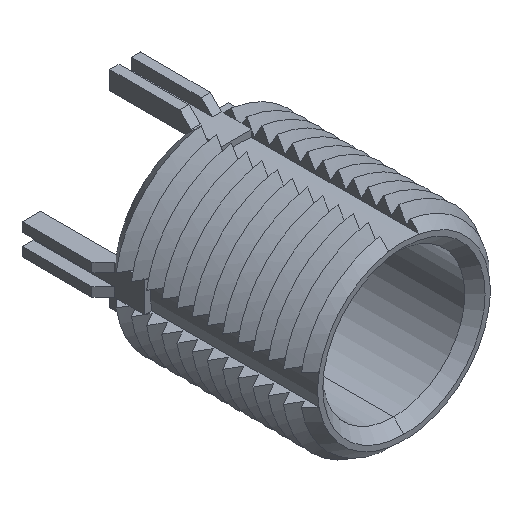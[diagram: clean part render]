
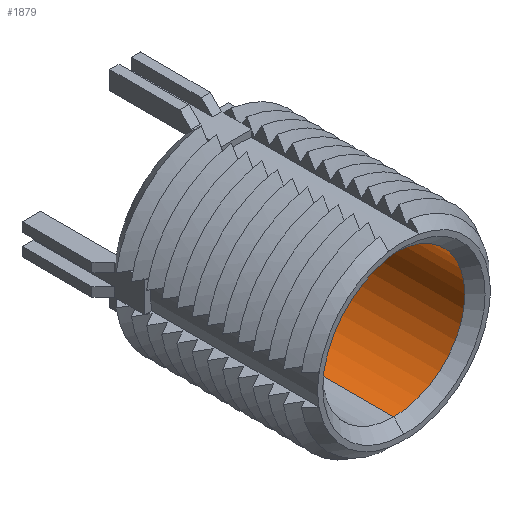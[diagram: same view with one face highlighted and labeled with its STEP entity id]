
A CAD part, isometric view. The second image highlights one B-rep face of the part: STEP entity #1879.
In plain terms, the highlighted cylindrical face has radius 7 mm (diameter 14 mm), a partial arc.
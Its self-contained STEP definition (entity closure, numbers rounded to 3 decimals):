
#29 = LINE ( 'NONE', #2131, #474 ) ;
#204 = DIRECTION ( 'NONE',  ( 0., 0., 1. ) ) ;
#313 = DIRECTION ( 'NONE',  ( 0., 1., 0. ) ) ;
#352 = VERTEX_POINT ( 'NONE', #4400 ) ;
#474 = VECTOR ( 'NONE', #4198, 1000. ) ;
#523 = DIRECTION ( 'NONE',  ( 0., 0., 1. ) ) ;
#678 = AXIS2_PLACEMENT_3D ( 'NONE', #2722, #4811, #204 ) ;
#851 = CIRCLE ( 'NONE', #3343, 7. ) ;
#864 = ORIENTED_EDGE ( 'NONE', *, *, #6205, .T. ) ;
#958 = DIRECTION ( 'NONE',  ( 0., -1., 0. ) ) ;
#967 = EDGE_CURVE ( 'NONE', #352, #2392, #851, .T. ) ;
#1021 = CYLINDRICAL_SURFACE ( 'NONE', #3235, 7. ) ;
#1179 = VERTEX_POINT ( 'NONE', #4066 ) ;
#1366 = DIRECTION ( 'NONE',  ( 0., 0., 1. ) ) ;
#1647 = ORIENTED_EDGE ( 'NONE', *, *, #3857, .T. ) ;
#1692 = CARTESIAN_POINT ( 'NONE',  ( 0., -19., 7. ) ) ;
#1720 = LINE ( 'NONE', #5897, #2617 ) ;
#1878 = ORIENTED_EDGE ( 'NONE', *, *, #6290, .F. ) ;
#1879 = ADVANCED_FACE ( 'NONE', ( #2641 ), #1021, .F. ) ;
#1910 = VERTEX_POINT ( 'NONE', #6454 ) ;
#2131 = CARTESIAN_POINT ( 'NONE',  ( 0., -39.799, -7. ) ) ;
#2371 = EDGE_LOOP ( 'NONE', ( #1878, #5184, #1647, #864 ) ) ;
#2392 = VERTEX_POINT ( 'NONE', #1692 ) ;
#2617 = VECTOR ( 'NONE', #313, 1000. ) ;
#2641 = FACE_OUTER_BOUND ( 'NONE', #2371, .T. ) ;
#2722 = CARTESIAN_POINT ( 'NONE',  ( 0., -1., 0. ) ) ;
#3235 = AXIS2_PLACEMENT_3D ( 'NONE', #6174, #5125, #523 ) ;
#3343 = AXIS2_PLACEMENT_3D ( 'NONE', #3529, #958, #1366 ) ;
#3529 = CARTESIAN_POINT ( 'NONE',  ( 0., -19., 0. ) ) ;
#3857 = EDGE_CURVE ( 'NONE', #2392, #1179, #1720, .T. ) ;
#4066 = CARTESIAN_POINT ( 'NONE',  ( 0., -1., 7. ) ) ;
#4198 = DIRECTION ( 'NONE',  ( 0., 1., 0. ) ) ;
#4400 = CARTESIAN_POINT ( 'NONE',  ( 0., -19., -7. ) ) ;
#4811 = DIRECTION ( 'NONE',  ( 0., 1., 0. ) ) ;
#5125 = DIRECTION ( 'NONE',  ( 0., 1., 0. ) ) ;
#5184 = ORIENTED_EDGE ( 'NONE', *, *, #967, .T. ) ;
#5897 = CARTESIAN_POINT ( 'NONE',  ( 0., -39.799, 7. ) ) ;
#6174 = CARTESIAN_POINT ( 'NONE',  ( 0., -39.799, 0. ) ) ;
#6205 = EDGE_CURVE ( 'NONE', #1179, #1910, #6473, .T. ) ;
#6290 = EDGE_CURVE ( 'NONE', #352, #1910, #29, .T. ) ;
#6454 = CARTESIAN_POINT ( 'NONE',  ( 0., -1., -7. ) ) ;
#6473 = CIRCLE ( 'NONE', #678, 7. ) ;
